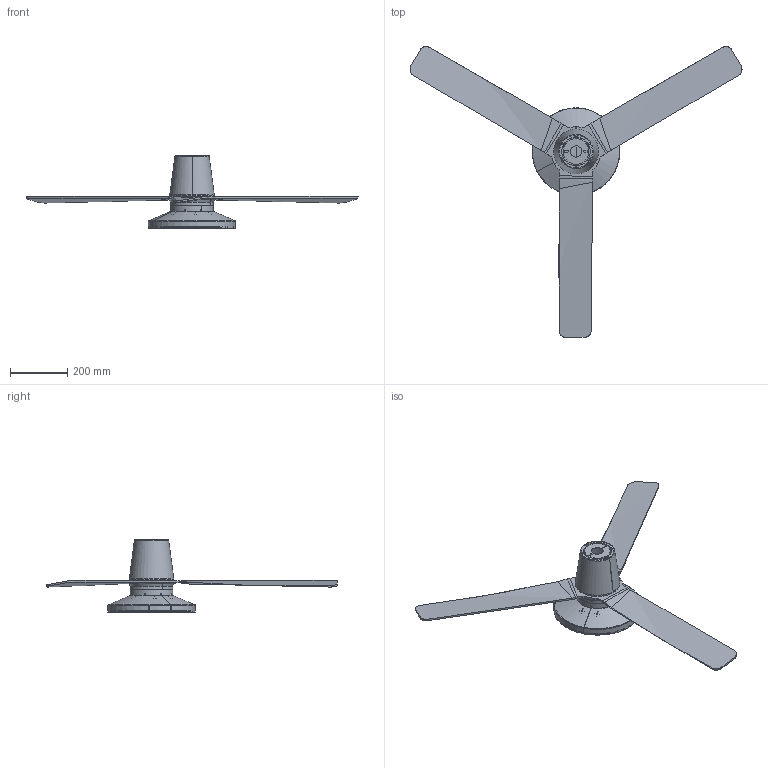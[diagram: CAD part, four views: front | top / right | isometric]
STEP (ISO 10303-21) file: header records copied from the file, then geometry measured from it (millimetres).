
FILE_DESCRIPTION(/* description */ (''),/* implementation_level */ '2;1');
FILE_NAME(/* name */ 'punt_tub_tak_m_3d',/* time_stamp */ '2026-06-25T12:23:41+02:00',/* author */ (''),/* organization */ (''),/* preprocessor_version */ 'ST-DEVELOPER v19.2',/* originating_system */ 'Rhino 8.30',/* authorisation */ '');
FILE_SCHEMA (('CONFIG_CONTROL_DESIGN'));
Length unit declared in the file: millimetre
Products named in the file (1): Document
Bounding box: 1161.55 x 1017.63 x 252.9 mm (x, y, z)
Volume: 212145.6 mm3; surface area: 1224603.3 mm2
Topology: 2 solids, 188 shells, 690 faces, 2412 edges, 1940 vertices
Faces by surface type: plane 349, cylinder 250, bspline 91
Entity records: 38288 total; most frequent: CARTESIAN_POINT 15319, ORIENTED_EDGE 3800, EDGE_CURVE 2412, VERTEX_POINT 1939, DIRECTION 1859, B_SPLINE_CURVE_WITH_KNOTS 1737, AXIS2_PLACEMENT_3D 1228, EDGE_LOOP 733
